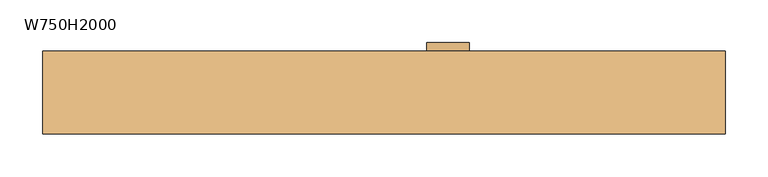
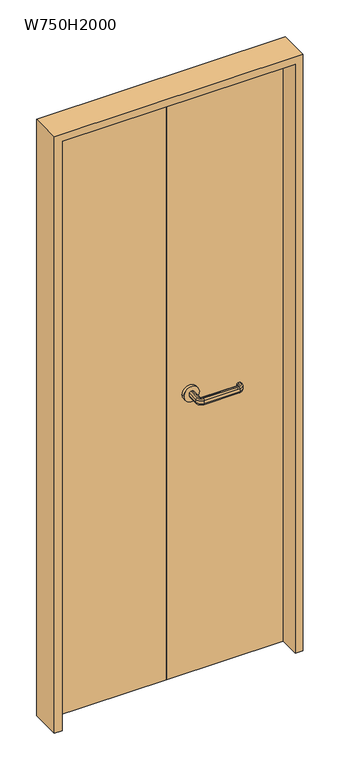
"""IFC4 building model written with IfcOpenShell, lengths in millimetres: door geometry, 両開き : W750H2000."""

import ifcopenshell
import ifcopenshell.guid

model = None  # the IFC model being written
_history = None  # IfcOwnerHistory: only IFC2X3 demands one
_inside = {}  # id of a spatial element -> (the spatial element, [elements in it])
_under = {}  # id of a project, library or spatial element -> (it, [spatial elements below it])
_declared = {}  # id of a project -> (the project, [libraries it declares])
_typed = {}  # id of a type object -> (the type object, [elements of that type])
_made_of = {}  # id of a material, layer set ... -> (it, [elements and type objects made of it])


def new_model(schema):
    """Start an empty IFC model of exactly this schema.

    Asked for "IFC4X3", IfcOpenShell would pick the latest addendum, in which some entities
    have other attributes; the version numbers below select the first issue.
    IFC2X3 requires an IfcOwnerHistory on every rooted entity: one is made here for all.
    """
    global model, _history
    if schema == "IFC4X3":
        model = ifcopenshell.file(schema_version=(4, 3, 0, 0))
    else:
        model = ifcopenshell.file(schema=schema)
    _inside.clear()
    _under.clear()
    _declared.clear()
    _typed.clear()
    _made_of.clear()
    _history = None
    if model.schema == "IFC2X3":
        org = make("IfcOrganization", Name="unknown")
        user = make(
            "IfcPersonAndOrganization",
            ThePerson=make("IfcPerson", FamilyName="unknown"),
            TheOrganization=org,
        )
        app = make(
            "IfcApplication",
            ApplicationDeveloper=org,
            Version="unknown",
            ApplicationFullName="unknown",
            ApplicationIdentifier="unknown",
        )
        _history = make(
            "IfcOwnerHistory",
            OwningUser=user,
            OwningApplication=app,
            ChangeAction="ADDED",
            CreationDate=0,
        )
    return model


def make(cls, **values):
    """One entity of the class cls with the attributes given. An attribute that is None is left unset."""
    return model.create_entity(
        cls, **{name: value for name, value in values.items() if value is not None}
    )


def rooted(cls, **values):
    """An entity with a GlobalId (a new one), such as an element, a storey or a relation."""
    return make(cls, GlobalId=ifcopenshell.guid.new(), OwnerHistory=_history, **values)


def si_unit(unit_type, name, prefix=None):
    """IfcSIUnit, for example si_unit("LENGTHUNIT", "METRE", prefix="MILLI")."""
    return make("IfcSIUnit", UnitType=unit_type, Prefix=prefix, Name=name)


def assignment(units):
    """IfcUnitAssignment: the units of a project."""
    return None if units is None else make("IfcUnitAssignment", Units=units)


def point(xyz):
    """IfcCartesianPoint."""
    return None if xyz is None else make("IfcCartesianPoint", Coordinates=xyz)


def direction(xyz):
    """IfcDirection."""
    return None if xyz is None else make("IfcDirection", DirectionRatios=xyz)


def frame(location, z_axis=None, x_axis=None):
    """IfcAxis2Placement3D, a coordinate frame: its origin and axes. An axis left out is left unset."""
    return make(
        "IfcAxis2Placement3D",
        Location=point(location),
        Axis=direction(z_axis),
        RefDirection=direction(x_axis),
    )


def frame_2d(location, x_axis=None):
    """IfcAxis2Placement2D, a coordinate frame in the plane: its origin and x axis."""
    return make(
        "IfcAxis2Placement2D", Location=point(location), RefDirection=direction(x_axis)
    )


def origin():
    """The frame at (0, 0, 0) with its axes left unset."""
    return frame((0.0, 0.0, 0.0))


def origin_with_axes():
    """The frame at (0, 0, 0) with the z axis (0, 0, 1) and the x axis (1, 0, 0) written out."""
    return frame((0.0, 0.0, 0.0), z_axis=(0.0, 0.0, 1.0), x_axis=(1.0, 0.0, 0.0))


def place(relative_to, where):
    """IfcLocalPlacement: puts the frame where relative to a parent placement (None: the world)."""
    return make(
        "IfcLocalPlacement", PlacementRelTo=relative_to, RelativePlacement=where
    )


def context(
    kind, dimensions, precision=None, world=None, true_north=None, identifier=None
):
    """IfcGeometricRepresentationContext, for example the 3D "Model" context."""
    return make(
        "IfcGeometricRepresentationContext",
        ContextIdentifier=identifier,
        ContextType=kind,
        CoordinateSpaceDimension=dimensions,
        Precision=precision,
        WorldCoordinateSystem=world,
        TrueNorth=true_north,
    )


def project(units=None, contexts=None):
    """IfcProject with its units and contexts."""
    return rooted(
        "IfcProject",
        Name="project",
        RepresentationContexts=contexts,
        UnitsInContext=assignment(units),
    )


def spatial(cls, under=None, at=None, **own):
    """A site, building, storey or space (cls), placed at a placement, below another one or the project."""
    s = rooted(cls, ObjectPlacement=at, **own)
    if under is not None:
        _under.setdefault(under.id(), (under, []))[1].append(s)
    return s


def polyline(points):
    """IfcPolyline through the points."""
    return make("IfcPolyline", Points=[point(p) for p in points])


def circle_curve(where, radius):
    """IfcCircle in the frame where."""
    return make("IfcCircle", Position=where, Radius=radius)


def ellipse_curve(where, semi_axis1, semi_axis2):
    """IfcEllipse in the frame where."""
    return make(
        "IfcEllipse", Position=where, SemiAxis1=semi_axis1, SemiAxis2=semi_axis2
    )


def trimmed(basis, trim1, trim2, sense, master):
    """IfcTrimmedCurve: the piece of a basis curve between two trims."""
    return make(
        "IfcTrimmedCurve",
        BasisCurve=basis,
        Trim1=trim1,
        Trim2=trim2,
        SenseAgreement=sense,
        MasterRepresentation=master,
    )


def segment(curve, same_sense, transition):
    """IfcCompositeCurveSegment."""
    return make(
        "IfcCompositeCurveSegment",
        Transition=transition,
        SameSense=same_sense,
        ParentCurve=curve,
    )


def composite_curve(segments, self_intersect=None):
    """IfcCompositeCurve: segments joined end to end."""
    return make("IfcCompositeCurve", Segments=segments, SelfIntersect=self_intersect)


def outline(outer, holes=None, kind="AREA"):
    """IfcArbitraryClosedProfileDef: a profile drawn as a closed curve; with holes, ...WithVoids."""
    if holes is None:
        return make("IfcArbitraryClosedProfileDef", ProfileType=kind, OuterCurve=outer)
    return make(
        "IfcArbitraryProfileDefWithVoids",
        ProfileType=kind,
        OuterCurve=outer,
        InnerCurves=holes,
    )


def extrude(swept, where, along, depth):
    """IfcExtrudedAreaSolid: the profile swept, set in the frame where, extruded along a direction by depth."""
    return make(
        "IfcExtrudedAreaSolid",
        SweptArea=swept,
        Position=where,
        ExtrudedDirection=direction(along),
        Depth=depth,
    )


def shape(context_of_items, identifier, shape_type, items):
    """IfcShapeRepresentation: the items that make up one representation, for example the "Body"."""
    return make(
        "IfcShapeRepresentation",
        ContextOfItems=context_of_items,
        RepresentationIdentifier=identifier,
        RepresentationType=shape_type,
        Items=items,
    )


def source(mapping_origin, context_of_items, identifier, shape_type, items):
    """IfcRepresentationMap: a shape defined once, which mapped items show again and again."""
    return make(
        "IfcRepresentationMap",
        MappingOrigin=mapping_origin,
        MappedRepresentation=shape(context_of_items, identifier, shape_type, items),
    )


def transform(
    local_origin,
    x_axis=None,
    y_axis=None,
    z_axis=None,
    scale=None,
    scale2=None,
    scale3=None,
    uniform=True,
):
    """IfcCartesianTransformationOperator3D, or its non-uniform kind. x_axis, y_axis, z_axis: its Axis1, 2, 3."""
    if uniform:
        return make(
            "IfcCartesianTransformationOperator3D",
            Axis1=direction(x_axis),
            Axis2=direction(y_axis),
            LocalOrigin=point(local_origin),
            Scale=scale,
            Axis3=direction(z_axis),
        )
    return make(
        "IfcCartesianTransformationOperator3DnonUniform",
        Axis1=direction(x_axis),
        Axis2=direction(y_axis),
        LocalOrigin=point(local_origin),
        Scale=scale,
        Axis3=direction(z_axis),
        Scale2=scale2,
        Scale3=scale3,
    )


def mapped(mapping_source, mapping_target):
    """IfcMappedItem: shows the shape of a source again, moved by a transform."""
    return make(
        "IfcMappedItem", MappingSource=mapping_source, MappingTarget=mapping_target
    )


def made_of(thing, what):
    """Note that an element or type object is made of a material, layer set ...; save() writes the relation."""
    if what is not None:
        _made_of.setdefault(what.id(), (what, []))[1].append(thing)
    return thing


def element(
    cls,
    number,
    at=None,
    inside=None,
    cuts=None,
    type_object=None,
    material=None,
    context=None,
    identifier="Body",
    shape_type=None,
    held_by="IfcProductDefinitionShape",
    body=None,
    shapes=None,
    **own,
):
    """One element of the class cls, such as IfcWall. Its Tag is "e" and its number.

    at: its placement. inside: the storey or other place that contains it. cuts: it is an
    opening in that element (IfcRelVoidsElement). A single representation is given by context,
    identifier, shape_type and body (its items); several are given by shapes. held_by: the class
    of the entity that holds the representations. save() writes the other relations.
    """
    e = rooted(cls, Tag="e%d" % number, ObjectPlacement=at, **own)
    if body is not None:
        shapes = [shape(context, identifier, shape_type, body)]
    if shapes is not None:
        e.Representation = make(held_by, Representations=shapes)
    if inside is not None:
        _inside.setdefault(inside.id(), (inside, []))[1].append(e)
    if cuts is not None:
        rooted(
            "IfcRelVoidsElement", RelatingBuildingElement=cuts, RelatedOpeningElement=e
        )
    if type_object is not None:
        _typed.setdefault(type_object.id(), (type_object, []))[1].append(e)
    return made_of(e, material)


def aggregate(whole, parts):
    """IfcRelAggregates: a whole, such as a stair, and the parts it consists of."""
    return rooted("IfcRelAggregates", RelatingObject=whole, RelatedObjects=parts)


def save(model, path):
    """Write the relations noted so far, then the file.

    IfcRelAggregates (storeys below a building ...), IfcRelContainedInSpatialStructure (elements
    in a storey), IfcRelDefinesByType, IfcRelAssociatesMaterial and IfcRelDeclares: one each for
    every whole, place, type object, material and project.
    """
    for whole, parts in _under.values():
        aggregate(whole, parts)
    for where, things in _inside.values():
        rooted(
            "IfcRelContainedInSpatialStructure",
            RelatedElements=things,
            RelatingStructure=where,
        )
    for kind, things in _typed.values():
        rooted("IfcRelDefinesByType", RelatedObjects=things, RelatingType=kind)
    for what, things in _made_of.values():
        rooted("IfcRelAssociatesMaterial", RelatedObjects=things, RelatingMaterial=what)
    for by, libraries in _declared.values():
        rooted("IfcRelDeclares", RelatingContext=by, RelatedDefinitions=libraries)
    model.write(path)


def plane_surface(at):
    """IfcPlane: the flat surface through the origin of the frame at, square to its z axis."""
    return make("IfcPlane", Position=at)


def cylinder_surface(at, radius):
    """IfcCylindricalSurface: all points at the distance radius from the z axis of the frame at."""
    return make("IfcCylindricalSurface", Position=at, Radius=radius)


def revolved_surface(curve, axis_point, axis_direction):
    """IfcSurfaceOfRevolution: the curve turned about the line through axis_point along axis_direction."""
    return make(
        "IfcSurfaceOfRevolution",
        SweptCurve=make("IfcArbitraryOpenProfileDef", ProfileType="CURVE", Curve=curve),
        AxisPosition=make("IfcAxis1Placement", Location=point(axis_point), Axis=direction(axis_direction)),
    )


def advanced_brep(points, edges, surfaces, faces):
    """IfcAdvancedBrep: a solid bounded by faces that lie on surfaces and meet in shared edges.

    An edge is (start, end): straight between two places in points (the first is 0);
    or (start, end, curve); or (start, end, curve, False) where it runs against its curve.
    A face is (place in surfaces, loops), or (place, loops, False) where it looks against
    its surface's normal. A loop lists edges by number (the first is 1), with a minus sign
    where the edge is run from its end to its start. The first loop is the outer one.
    """
    corners = [point(p) for p in points]
    vertices = [make("IfcVertexPoint", VertexGeometry=c) for c in corners]
    made = []
    for start, end, *more in edges:
        made.append(
            make(
                "IfcEdgeCurve",
                EdgeStart=vertices[start],
                EdgeEnd=vertices[end],
                EdgeGeometry=more[0] if more else make("IfcPolyline", Points=[corners[start], corners[end]]),
                SameSense=more[1] if len(more) > 1 else True,
            )
        )
    hull = []
    for where, loops, *sense in faces:
        bounds = []
        for j, loop in enumerate(loops):
            ring = [make("IfcOrientedEdge", EdgeElement=made[abs(k) - 1], Orientation=k > 0) for k in loop]
            bounds.append(
                make(
                    "IfcFaceOuterBound" if j == 0 else "IfcFaceBound",
                    Bound=make("IfcEdgeLoop", EdgeList=ring),
                    Orientation=True,
                )
            )
        hull.append(make("IfcAdvancedFace", Bounds=bounds, FaceSurface=surfaces[where], SameSense=sense[0] if sense else True))
    return make("IfcAdvancedBrep", Outer=make("IfcClosedShell", CfsFaces=hull))


def w750h2000_0d8cda2a(model_context):
    return source(origin(), model_context, "Body", "SolidModel", [
        advanced_brep(
        [(77.0, 8.75, 940.0), (73.0, 8.75, 940.0), (68.0, 8.75, 945.0), (68.0, 8.75, 955.0), (73.0, 8.75, 960.0), (77.0, 8.75, 960.0), (82.0, 8.75, 955.0), (82.0, 8.75, 945.0), (77.0, -26.25, 940.0), (85.0, -34.25, 940.0), (200.0, -34.25, 940.0), (208.0, -26.25, 940.0), (208.0, -21.25, 940.0), (212.0, -21.25, 940.0), (212.0, -26.25, 940.0), (200.0, -38.25, 940.0), (85.0, -38.25, 940.0), (73.0, -26.25, 940.0), (68.0, -26.25, 945.0), (68.0, -26.25, 955.0), (73.0, -26.25, 960.0), (85.0, -38.25, 960.0), (200.0, -38.25, 960.0), (212.0, -26.25, 960.0), (212.0, -21.25, 960.0), (208.0, -21.25, 960.0), (208.0, -26.25, 960.0), (200.0, -34.25, 960.0), (85.0, -34.25, 960.0), (77.0, -26.25, 960.0), (82.0, -26.25, 955.0), (82.0, -26.25, 945.0), (85.0, -43.25, 945.0), (85.0, -43.25, 955.0), (85.0, -29.25, 955.0), (85.0, -29.25, 945.0), (200.0, -43.25, 945.0), (200.0, -43.25, 955.0), (200.0, -29.25, 955.0), (200.0, -29.25, 945.0), (217.0, -26.25, 945.0), (217.0, -26.25, 955.0), (203.0, -26.25, 955.0), (203.0, -26.25, 945.0), (203.0, -21.25, 945.0), (203.0, -21.25, 955.0), (217.0, -21.25, 955.0), (217.0, -21.25, 945.0)],
        [
            (0, 1),
            (1, 2, circle_curve(frame((73.0, 8.75, 945.0), z_axis=(0.0, 1.0, 0.0), x_axis=(1.0, 0.0, 0.0)), 5.0)),
            (2, 3),
            (3, 4, circle_curve(frame((73.0, 8.75, 955.0), z_axis=(0.0, 1.0, 0.0), x_axis=(1.0, 0.0, 0.0)), 5.0)),
            (4, 5),
            (5, 6, circle_curve(frame((77.0, 8.75, 955.0), z_axis=(0.0, 1.0, 0.0), x_axis=(1.0, 0.0, 0.0)), 5.0)),
            (6, 7),
            (7, 0, circle_curve(frame((77.0, 8.75, 945.0), z_axis=(0.0, 1.0, 0.0), x_axis=(1.0, 0.0, 0.0)), 5.0)),
            (0, 8),
            (8, 9, circle_curve(frame((85.0, -26.25, 940.0), z_axis=(0.0, 0.0, 1.0), x_axis=(-1.0, 0.0, 0.0)), 8.0)),
            (9, 10),
            (10, 11, circle_curve(frame((200.0, -26.25, 940.0), z_axis=(0.0, 0.0, 1.0), x_axis=(0.0, -1.0, 0.0)), 8.0)),
            (11, 12),
            (12, 13),
            (13, 14),
            (14, 15, circle_curve(frame((200.0, -26.25, 940.0), z_axis=(0.0, 0.0, -1.0), x_axis=(0.0, -1.0, 0.0)), 12.0)),
            (15, 16),
            (16, 17, circle_curve(frame((85.0, -26.25, 940.0), z_axis=(0.0, 0.0, -1.0), x_axis=(-1.0, 0.0, 0.0)), 12.0)),
            (17, 1),
            (17, 18, circle_curve(frame((73.0, -26.25, 945.0), z_axis=(0.0, 1.0, 0.0), x_axis=(1.0, 0.0, 0.0)), 5.0)),
            (18, 2),
            (18, 19),
            (19, 3),
            (19, 20, circle_curve(frame((73.0, -26.25, 955.0), z_axis=(0.0, 1.0, 0.0), x_axis=(1.0, 0.0, 0.0)), 5.0)),
            (20, 4),
            (20, 21, circle_curve(frame((85.0, -26.25, 960.0), z_axis=(0.0, 0.0, 1.0), x_axis=(-1.0, 0.0, 0.0)), 12.0)),
            (21, 22),
            (22, 23, circle_curve(frame((200.0, -26.25, 960.0), z_axis=(0.0, 0.0, 1.0), x_axis=(0.0, -1.0, 0.0)), 12.0)),
            (23, 24),
            (24, 25),
            (25, 26),
            (26, 27, circle_curve(frame((200.0, -26.25, 960.0), z_axis=(0.0, 0.0, -1.0), x_axis=(0.0, -1.0, 0.0)), 8.0)),
            (27, 28),
            (28, 29, circle_curve(frame((85.0, -26.25, 960.0), z_axis=(0.0, 0.0, -1.0), x_axis=(-1.0, 0.0, 0.0)), 8.0)),
            (29, 5),
            (29, 30, circle_curve(frame((77.0, -26.25, 955.0), z_axis=(0.0, 1.0, 0.0), x_axis=(1.0, 0.0, 0.0)), 5.0)),
            (30, 6),
            (30, 31),
            (31, 7),
            (31, 8, circle_curve(frame((77.0, -26.25, 945.0), z_axis=(0.0, 1.0, 0.0), x_axis=(1.0, 0.0, 0.0)), 5.0)),
            (32, 18, circle_curve(frame((85.0, -26.25, 945.0), z_axis=(0.0, 0.0, -1.0), x_axis=(-1.0, 0.0, 0.0)), 17.0)),
            (16, 32, circle_curve(frame((85.0, -38.25, 945.0), z_axis=(-1.0, 0.0, 0.0), x_axis=(0.0, 1.0, 0.0)), 5.0)),
            (33, 19, circle_curve(frame((85.0, -26.25, 955.0), z_axis=(0.0, 0.0, -1.0), x_axis=(-1.0, 0.0, 0.0)), 17.0)),
            (32, 33),
            (33, 21, circle_curve(frame((85.0, -38.25, 955.0), z_axis=(-1.0, 0.0, 0.0), x_axis=(0.0, 1.0, 0.0)), 5.0)),
            (34, 30, circle_curve(frame((85.0, -26.25, 955.0), z_axis=(0.0, 0.0, -1.0), x_axis=(-1.0, 0.0, 0.0)), 3.0)),
            (28, 34, circle_curve(frame((85.0, -34.25, 955.0), z_axis=(-1.0, 0.0, 0.0), x_axis=(0.0, 1.0, 0.0)), 5.0)),
            (35, 31, circle_curve(frame((85.0, -26.25, 945.0), z_axis=(0.0, 0.0, -1.0), x_axis=(-1.0, 0.0, 0.0)), 3.0)),
            (34, 35),
            (35, 9, circle_curve(frame((85.0, -34.25, 945.0), z_axis=(-1.0, 0.0, 0.0), x_axis=(0.0, 1.0, 0.0)), 5.0)),
            (15, 36, circle_curve(frame((200.0, -38.25, 945.0), z_axis=(-1.0, 0.0, 0.0), x_axis=(0.0, 1.0, 0.0)), 5.0)),
            (36, 32),
            (36, 37),
            (37, 33),
            (37, 22, circle_curve(frame((200.0, -38.25, 955.0), z_axis=(-1.0, 0.0, 0.0), x_axis=(0.0, 1.0, 0.0)), 5.0)),
            (27, 38, circle_curve(frame((200.0, -34.25, 955.0), z_axis=(-1.0, 0.0, 0.0), x_axis=(0.0, 1.0, 0.0)), 5.0)),
            (38, 34),
            (38, 39),
            (39, 35),
            (39, 10, circle_curve(frame((200.0, -34.25, 945.0), z_axis=(-1.0, 0.0, 0.0), x_axis=(0.0, 1.0, 0.0)), 5.0)),
            (40, 36, circle_curve(frame((200.0, -26.25, 945.0), z_axis=(0.0, 0.0, -1.0), x_axis=(0.0, -1.0, 0.0)), 17.0)),
            (14, 40, circle_curve(frame((212.0, -26.25, 945.0), z_axis=(0.0, -1.0, 0.0), x_axis=(-1.0, 0.0, 0.0)), 5.0)),
            (41, 37, circle_curve(frame((200.0, -26.25, 955.0), z_axis=(0.0, 0.0, -1.0), x_axis=(0.0, -1.0, 0.0)), 17.0)),
            (40, 41),
            (41, 23, circle_curve(frame((212.0, -26.25, 955.0), z_axis=(0.0, -1.0, 0.0), x_axis=(-1.0, 0.0, 0.0)), 5.0)),
            (42, 38, circle_curve(frame((200.0, -26.25, 955.0), z_axis=(0.0, 0.0, -1.0), x_axis=(0.0, -1.0, 0.0)), 3.0)),
            (26, 42, circle_curve(frame((208.0, -26.25, 955.0), z_axis=(0.0, -1.0, 0.0), x_axis=(-1.0, 0.0, 0.0)), 5.0)),
            (43, 39, circle_curve(frame((200.0, -26.25, 945.0), z_axis=(0.0, 0.0, -1.0), x_axis=(0.0, -1.0, 0.0)), 3.0)),
            (42, 43),
            (43, 11, circle_curve(frame((208.0, -26.25, 945.0), z_axis=(0.0, -1.0, 0.0), x_axis=(-1.0, 0.0, 0.0)), 5.0)),
            (12, 44, circle_curve(frame((208.0, -21.25, 945.0), z_axis=(0.0, 1.0, 0.0), x_axis=(-1.0, 0.0, 0.0)), 5.0)),
            (44, 45),
            (45, 25, circle_curve(frame((208.0, -21.25, 955.0), z_axis=(0.0, 1.0, 0.0), x_axis=(-1.0, 0.0, 0.0)), 5.0)),
            (24, 46, circle_curve(frame((212.0, -21.25, 955.0), z_axis=(0.0, 1.0, 0.0), x_axis=(-1.0, 0.0, 0.0)), 5.0)),
            (46, 47),
            (47, 13, circle_curve(frame((212.0, -21.25, 945.0), z_axis=(0.0, 1.0, 0.0), x_axis=(-1.0, 0.0, 0.0)), 5.0)),
            (47, 40),
            (46, 41),
            (45, 42),
            (44, 43),
        ],
        [
            plane_surface(frame((64.801961, 8.75, 950.0), z_axis=(0.0, 1.0, 0.0), x_axis=(0.0, 0.0, -1.0))),
            plane_surface(frame((77.0, 8.75, 940.0), z_axis=(0.0, 0.0, -1.0), x_axis=(0.0, -1.0, 0.0))),
            cylinder_surface(frame((73.0, 8.75, 945.0), z_axis=(0.0, 1.0, 0.0), x_axis=(1.0, 0.0, 0.0)), 5.0),
            plane_surface(frame((68.0, 8.75, 945.0), z_axis=(-1.0, 0.0, 0.0), x_axis=(0.0, -1.0, 0.0))),
            cylinder_surface(frame((73.0, 8.75, 955.0), z_axis=(0.0, 1.0, 0.0), x_axis=(1.0, 0.0, 0.0)), 5.0),
            plane_surface(frame((73.0, 8.75, 960.0), z_axis=(0.0, 0.0, 1.0), x_axis=(0.0, -1.0, 0.0))),
            cylinder_surface(frame((77.0, 8.75, 955.0), z_axis=(0.0, 1.0, 0.0), x_axis=(1.0, 0.0, 0.0)), 5.0),
            plane_surface(frame((82.0, 8.75, 955.0), z_axis=(1.0, 0.0, 0.0), x_axis=(0.0, -1.0, 0.0))),
            cylinder_surface(frame((77.0, 8.75, 945.0), z_axis=(0.0, 1.0, 0.0), x_axis=(1.0, 0.0, 0.0)), 5.0),
            revolved_surface(trimmed(ellipse_curve(frame((73.0, -26.25, 945.0), z_axis=(0.0, 1.0, 0.0), x_axis=(1.0, 0.0, 0.0)), 5.0, 5.0), [point((73.0, -26.25, 940.0))], [point((68.0, -26.25, 945.0))], True, "CARTESIAN"), (85.0, -26.25, 950.0), (0.0, 0.0, 1.0)),
            cylinder_surface(frame((85.0, -26.25, 950.0), z_axis=(0.0, 0.0, 1.0), x_axis=(-1.0, 0.0, 0.0)), 17.0),
            revolved_surface(trimmed(ellipse_curve(frame((73.0, -26.25, 955.0), z_axis=(0.0, 1.0, 0.0), x_axis=(1.0, 0.0, 0.0)), 5.0, 5.0), [point((68.0, -26.25, 955.0))], [point((73.0, -26.25, 960.0))], True, "CARTESIAN"), (85.0, -26.25, 950.0), (0.0, 0.0, 1.0)),
            revolved_surface(trimmed(ellipse_curve(frame((77.0, -26.25, 955.0), z_axis=(0.0, 1.0, 0.0), x_axis=(1.0, 0.0, 0.0)), 5.0, 5.0), [point((77.0, -26.25, 960.0))], [point((82.0, -26.25, 955.0))], True, "CARTESIAN"), (85.0, -26.25, 950.0), (0.0, 0.0, 1.0)),
            revolved_surface(polyline([(82.0, -26.25, 955.0), (82.0, -26.25, 945.0)]), (85.0, -26.25, 950.0), (0.0, 0.0, 1.0)),
            revolved_surface(trimmed(ellipse_curve(frame((77.0, -26.25, 945.0), z_axis=(0.0, 1.0, 0.0), x_axis=(1.0, 0.0, 0.0)), 5.0, 5.0), [point((82.0, -26.25, 945.0))], [point((77.0, -26.25, 940.0))], True, "CARTESIAN"), (85.0, -26.25, 950.0), (0.0, 0.0, 1.0)),
            cylinder_surface(frame((85.0, -38.25, 945.0), z_axis=(-1.0, 0.0, 0.0), x_axis=(0.0, 1.0, 0.0)), 5.0),
            plane_surface(frame((85.0, -43.25, 945.0), z_axis=(0.0, -1.0, 0.0), x_axis=(1.0, 0.0, 0.0))),
            cylinder_surface(frame((85.0, -38.25, 955.0), z_axis=(-1.0, 0.0, 0.0), x_axis=(0.0, 1.0, 0.0)), 5.0),
            cylinder_surface(frame((85.0, -34.25, 955.0), z_axis=(-1.0, 0.0, 0.0), x_axis=(0.0, 1.0, 0.0)), 5.0),
            plane_surface(frame((85.0, -29.25, 955.0), z_axis=(0.0, 1.0, 0.0), x_axis=(1.0, 0.0, 0.0))),
            cylinder_surface(frame((85.0, -34.25, 945.0), z_axis=(-1.0, 0.0, 0.0), x_axis=(0.0, 1.0, 0.0)), 5.0),
            revolved_surface(trimmed(ellipse_curve(frame((200.0, -38.25, 945.0), z_axis=(-1.0, 0.0, 0.0), x_axis=(0.0, 1.0, 0.0)), 5.0, 5.0), [point((200.0, -38.25, 940.0))], [point((200.0, -43.25, 945.0))], True, "CARTESIAN"), (200.0, -26.25, 950.0), (0.0, 0.0, 1.0)),
            cylinder_surface(frame((200.0, -26.25, 950.0), z_axis=(0.0, 0.0, 1.0), x_axis=(0.0, -1.0, 0.0)), 17.0),
            revolved_surface(trimmed(ellipse_curve(frame((200.0, -38.25, 955.0), z_axis=(-1.0, 0.0, 0.0), x_axis=(0.0, 1.0, 0.0)), 5.0, 5.0), [point((200.0, -43.25, 955.0))], [point((200.0, -38.25, 960.0))], True, "CARTESIAN"), (200.0, -26.25, 950.0), (0.0, 0.0, 1.0)),
            revolved_surface(trimmed(ellipse_curve(frame((200.0, -34.25, 955.0), z_axis=(-1.0, 0.0, 0.0), x_axis=(0.0, 1.0, 0.0)), 5.0, 5.0), [point((200.0, -34.25, 960.0))], [point((200.0, -29.25, 955.0))], True, "CARTESIAN"), (200.0, -26.25, 950.0), (0.0, 0.0, 1.0)),
            revolved_surface(polyline([(200.0, -29.25, 955.0), (200.0, -29.25, 945.0)]), (200.0, -26.25, 950.0), (0.0, 0.0, 1.0)),
            revolved_surface(trimmed(ellipse_curve(frame((200.0, -34.25, 945.0), z_axis=(-1.0, 0.0, 0.0), x_axis=(0.0, 1.0, 0.0)), 5.0, 5.0), [point((200.0, -29.25, 945.0))], [point((200.0, -34.25, 940.0))], True, "CARTESIAN"), (200.0, -26.25, 950.0), (0.0, 0.0, 1.0)),
            plane_surface(frame((199.801961, -21.25, 950.0), z_axis=(0.0, 1.0, 0.0), x_axis=(0.0, 0.0, 1.0))),
            cylinder_surface(frame((212.0, -26.25, 945.0), z_axis=(0.0, -1.0, 0.0), x_axis=(-1.0, 0.0, 0.0)), 5.0),
            plane_surface(frame((217.0, -26.25, 945.0), z_axis=(1.0, 0.0, 0.0), x_axis=(0.0, 1.0, 0.0))),
            cylinder_surface(frame((212.0, -26.25, 955.0), z_axis=(0.0, -1.0, 0.0), x_axis=(-1.0, 0.0, 0.0)), 5.0),
            cylinder_surface(frame((208.0, -26.25, 955.0), z_axis=(0.0, -1.0, 0.0), x_axis=(-1.0, 0.0, 0.0)), 5.0),
            plane_surface(frame((203.0, -26.25, 955.0), z_axis=(-1.0, 0.0, 0.0), x_axis=(0.0, 1.0, 0.0))),
            cylinder_surface(frame((208.0, -26.25, 945.0), z_axis=(0.0, -1.0, 0.0), x_axis=(-1.0, 0.0, 0.0)), 5.0),
        ],
        [
            (0, [[1, 2, 3, 4, 5, 6, 7, 8]]),
            (1, [[-1, 9, 10, 11, 12, 13, 14, 15, 16, 17, 18, 19]]),
            (2, [[-2, -19, 20, 21]]),
            (3, [[-3, -21, 22, 23]]),
            (4, [[-4, -23, 24, 25]]),
            (5, [[-5, -25, 26, 27, 28, 29, 30, 31, 32, 33, 34, 35]]),
            (6, [[-6, -35, 36, 37]]),
            (7, [[-7, -37, 38, 39]]),
            (8, [[-8, -39, 40, -9]]),
            (9, [[41, -20, -18, 42]]),
            (10, [[43, -22, -41, 44]]),
            (11, [[-26, -24, -43, 45]]),
            (12, [[46, -36, -34, 47]]),
            (13, [[48, -38, -46, 49]]),
            (14, [[-10, -40, -48, 50]]),
            (15, [[-42, -17, 51, 52]]),
            (16, [[-44, -52, 53, 54]]),
            (17, [[-45, -54, 55, -27]]),
            (18, [[-47, -33, 56, 57]]),
            (19, [[-49, -57, 58, 59]]),
            (20, [[-50, -59, 60, -11]]),
            (21, [[61, -51, -16, 62]]),
            (22, [[63, -53, -61, 64]]),
            (23, [[-28, -55, -63, 65]]),
            (24, [[66, -56, -32, 67]]),
            (25, [[68, -58, -66, 69]]),
            (26, [[-12, -60, -68, 70]]),
            (27, [[71, 72, 73, -30, 74, 75, 76, -14]]),
            (28, [[-62, -15, -76, 77]]),
            (29, [[-64, -77, -75, 78]]),
            (30, [[-65, -78, -74, -29]]),
            (31, [[-67, -31, -73, 79]]),
            (32, [[-69, -79, -72, 80]]),
            (33, [[-70, -80, -71, -13]]),
        ],
    ),
        extrude(outline(composite_curve([segment(trimmed(circle_curve(frame_2d((950.0, 75.0)), 25.0), [point((950.0, 50.0))], [point((950.0, 100.0))], False, "CARTESIAN"), True, "CONTINUOUS"), segment(trimmed(circle_curve(frame_2d((950.0, 75.0)), 25.0), [point((950.0, 100.0))], [point((950.0, 50.0))], False, "CARTESIAN"), True, "CONTINUOUS")], self_intersect=False)), frame((0.0, 48.75, 0.0), z_axis=(0.0, 1.0, 0.0), x_axis=(0.0, 0.0, 1.0)), (0.0, 0.0, 1.0), 10.0),
        extrude(outline(composite_curve([segment(trimmed(circle_curve(frame_2d((950.0, 75.0)), 25.0), [point((950.0, 50.0))], [point((950.0, 100.0))], False, "CARTESIAN"), True, "CONTINUOUS"), segment(trimmed(circle_curve(frame_2d((950.0, 75.0)), 25.0), [point((950.0, 100.0))], [point((950.0, 50.0))], False, "CARTESIAN"), True, "CONTINUOUS")], self_intersect=False)), frame((0.0, 8.75, 0.0), z_axis=(0.0, 1.0, 0.0), x_axis=(0.0, 0.0, 1.0)), (0.0, 0.0, 1.0), 10.0),
        extrude(outline(polyline([(375.0, 18.75), (0.0, 18.75), (0.0, 48.75), (375.0, 48.75), (375.0, 18.75)])), origin_with_axes(), (0.0, 0.0, 1.0), 2000.0),
        extrude(outline(polyline([(2025.0, -400.0), (0.0, -400.0), (0.0, -375.0), (2000.0, -375.0), (2000.0, 375.0), (0.0, 375.0), (0.0, 400.0), (2025.0, 400.0), (2025.0, -400.0)])), frame((0.0, -48.75, 0.0), z_axis=(0.0, 1.0, 0.0), x_axis=(0.0, 0.0, 1.0)), (0.0, 0.0, 1.0), 97.5),
        extrude(outline(polyline([(0.0, 18.75), (-375.0, 18.75), (-375.0, 48.75), (0.0, 48.75), (0.0, 18.75)])), origin_with_axes(), (0.0, 0.0, 1.0), 2000.0),
    ])


if __name__ == "__main__":
    model = new_model("IFC4")
    model_context = context("Model", 3, world=origin())
    ifc_project = project(units=[si_unit("LENGTHUNIT", "METRE", prefix="MILLI")], contexts=[model_context])
    site = spatial("IfcSite", under=ifc_project)
    building = spatial("IfcBuilding", under=site)
    placement = place(None, origin())
    w750h2000_shape = w750h2000_0d8cda2a(model_context)
    element("IfcDoor", 1, ObjectType="両開き : W750H2000", at=placement, inside=building, context=model_context, shape_type="MappedRepresentation", body=[
        mapped(w750h2000_shape, transform((0.0, 0.0, 0.0), x_axis=(1.0, 0.0, 0.0), y_axis=(0.0, 1.0, 0.0), z_axis=(0.0, 0.0, 1.0))),
    ])
    save(model, "model.ifc")
